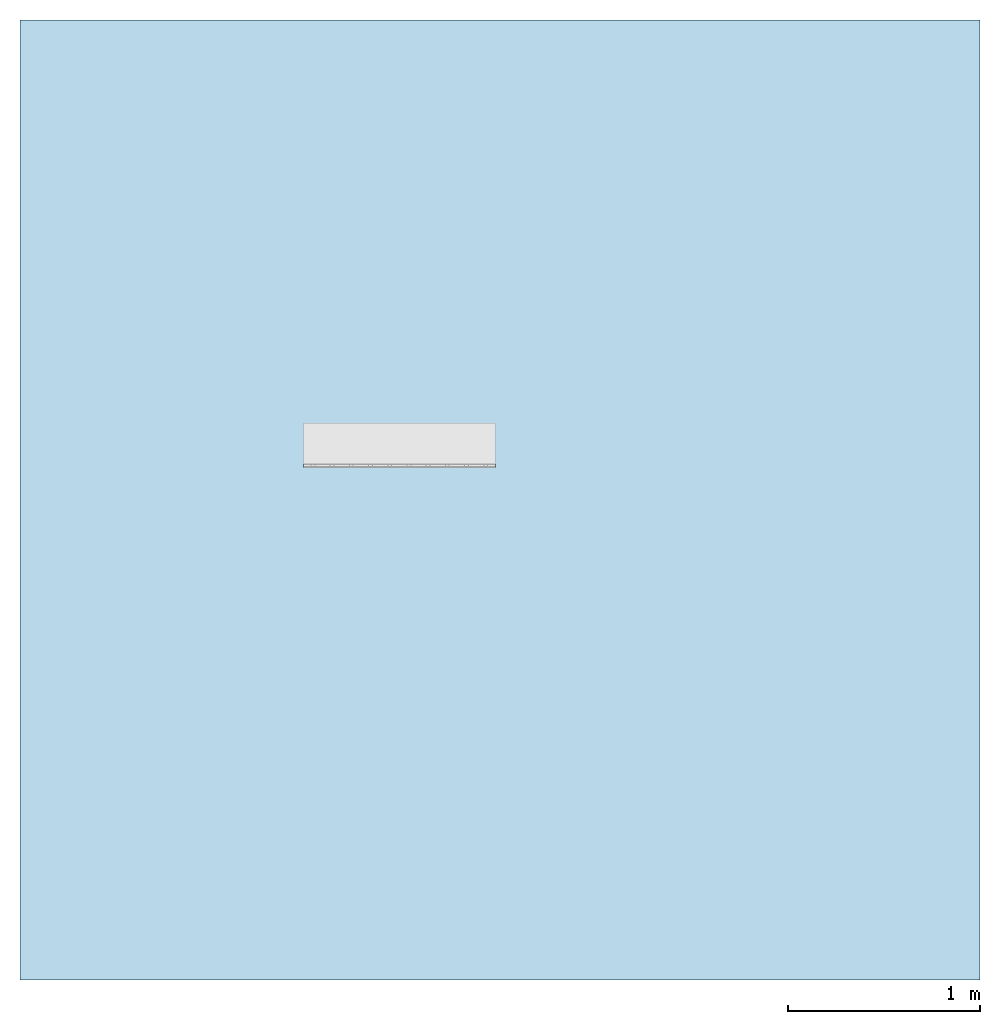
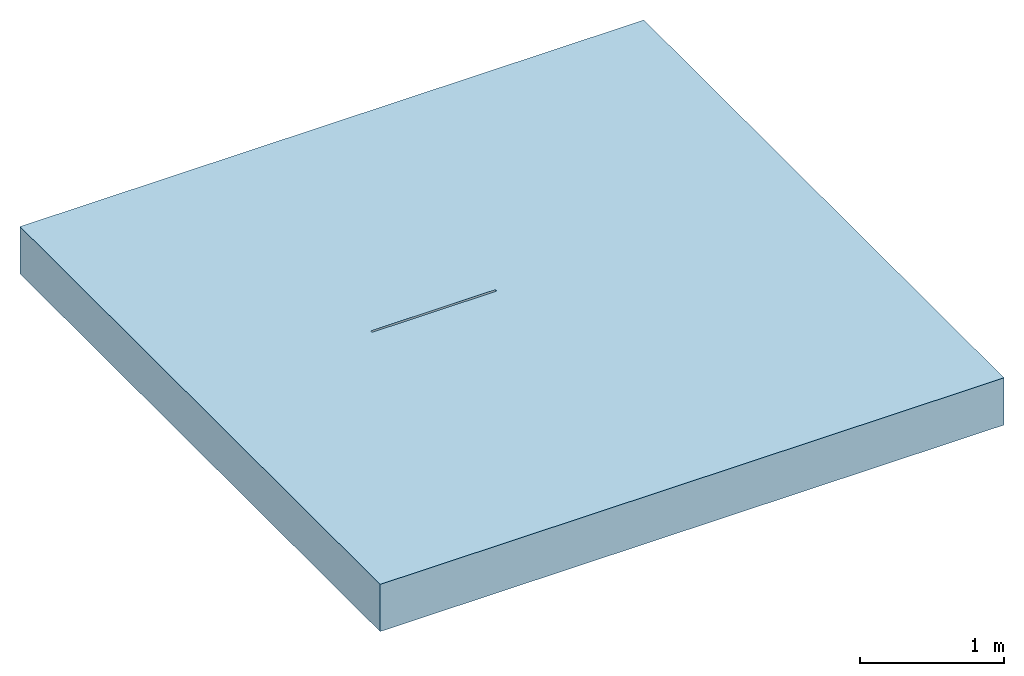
# One storey, part 1 of 2: 1 slab, 2 openings.
"""IFC2X3 building model written with IfcOpenShell, lengths in millimetres."""

import ifcopenshell
import ifcopenshell.guid

model = None  # the IFC model being written
_history = None  # IfcOwnerHistory: only IFC2X3 demands one
_inside = {}  # id of a spatial element -> (the spatial element, [elements in it])
_under = {}  # id of a project, library or spatial element -> (it, [spatial elements below it])
_declared = {}  # id of a project -> (the project, [libraries it declares])
_typed = {}  # id of a type object -> (the type object, [elements of that type])
_made_of = {}  # id of a material, layer set ... -> (it, [elements and type objects made of it])


def new_model(schema):
    """Start an empty IFC model of exactly this schema.

    Asked for "IFC4X3", IfcOpenShell would pick the latest addendum, in which some entities
    have other attributes; the version numbers below select the first issue.
    IFC2X3 requires an IfcOwnerHistory on every rooted entity: one is made here for all.
    """
    global model, _history
    if schema == "IFC4X3":
        model = ifcopenshell.file(schema_version=(4, 3, 0, 0))
    else:
        model = ifcopenshell.file(schema=schema)
    _inside.clear()
    _under.clear()
    _declared.clear()
    _typed.clear()
    _made_of.clear()
    _history = None
    if model.schema == "IFC2X3":
        org = make("IfcOrganization", Name="unknown")
        user = make(
            "IfcPersonAndOrganization",
            ThePerson=make("IfcPerson", FamilyName="unknown"),
            TheOrganization=org,
        )
        app = make(
            "IfcApplication",
            ApplicationDeveloper=org,
            Version="unknown",
            ApplicationFullName="unknown",
            ApplicationIdentifier="unknown",
        )
        _history = make(
            "IfcOwnerHistory",
            OwningUser=user,
            OwningApplication=app,
            ChangeAction="ADDED",
            CreationDate=0,
        )
    return model


def make(cls, **values):
    """One entity of the class cls with the attributes given. An attribute that is None is left unset."""
    return model.create_entity(
        cls, **{name: value for name, value in values.items() if value is not None}
    )


def entity(cls, *values):
    """Any entity or typed value of the class cls, its attributes in the order of the schema. None: left unset."""
    e = model.create_entity(cls)
    for i, value in enumerate(values):
        if value is not None:
            e[i] = value
    return e


def rooted(cls, **values):
    """An entity with a GlobalId (a new one), such as an element, a storey or a relation."""
    return make(cls, GlobalId=ifcopenshell.guid.new(), OwnerHistory=_history, **values)


def si_unit(unit_type, name, prefix=None):
    """IfcSIUnit, for example si_unit("LENGTHUNIT", "METRE", prefix="MILLI")."""
    return make("IfcSIUnit", UnitType=unit_type, Prefix=prefix, Name=name)


def converted_unit(unit_type, name, factor, base, dimensions=None, offset=None):
    """IfcConversionBasedUnit, such as the inch: factor (a typed value) times the base unit."""
    return make(
        "IfcConversionBasedUnit"
        if offset is None
        else "IfcConversionBasedUnitWithOffset",
        ConversionOffset=offset,
        Dimensions=None
        if dimensions is None
        else entity("IfcDimensionalExponents", *dimensions),
        UnitType=unit_type,
        Name=name,
        ConversionFactor=make(
            "IfcMeasureWithUnit", ValueComponent=factor, UnitComponent=base
        ),
    )


def assignment(units):
    """IfcUnitAssignment: the units of a project."""
    return None if units is None else make("IfcUnitAssignment", Units=units)


def point(xyz):
    """IfcCartesianPoint."""
    return None if xyz is None else make("IfcCartesianPoint", Coordinates=xyz)


def direction(xyz):
    """IfcDirection."""
    return None if xyz is None else make("IfcDirection", DirectionRatios=xyz)


def frame(location, z_axis=None, x_axis=None):
    """IfcAxis2Placement3D, a coordinate frame: its origin and axes. An axis left out is left unset."""
    return make(
        "IfcAxis2Placement3D",
        Location=point(location),
        Axis=direction(z_axis),
        RefDirection=direction(x_axis),
    )


def frame_2d(location, x_axis=None):
    """IfcAxis2Placement2D, a coordinate frame in the plane: its origin and x axis."""
    return make(
        "IfcAxis2Placement2D", Location=point(location), RefDirection=direction(x_axis)
    )


def origin():
    """The frame at (0, 0, 0) with its axes left unset."""
    return frame((0.0, 0.0, 0.0))


def place(relative_to, where):
    """IfcLocalPlacement: puts the frame where relative to a parent placement (None: the world)."""
    return make(
        "IfcLocalPlacement", PlacementRelTo=relative_to, RelativePlacement=where
    )


def context(
    kind, dimensions, precision=None, world=None, true_north=None, identifier=None
):
    """IfcGeometricRepresentationContext, for example the 3D "Model" context."""
    return make(
        "IfcGeometricRepresentationContext",
        ContextIdentifier=identifier,
        ContextType=kind,
        CoordinateSpaceDimension=dimensions,
        Precision=precision,
        WorldCoordinateSystem=world,
        TrueNorth=true_north,
    )


def subcontext(parent, identifier, kind, view, scale=None):
    """IfcGeometricRepresentationSubContext, for example "Body" below "Model"."""
    return make(
        "IfcGeometricRepresentationSubContext",
        ContextIdentifier=identifier,
        ContextType=kind,
        ParentContext=parent,
        TargetScale=scale,
        TargetView=view,
    )


def project(units=None, contexts=None):
    """IfcProject with its units and contexts."""
    return rooted(
        "IfcProject",
        Name="project",
        RepresentationContexts=contexts,
        UnitsInContext=assignment(units),
    )


def spatial(cls, under=None, at=None, **own):
    """A site, building, storey or space (cls), placed at a placement, below another one or the project."""
    s = rooted(cls, ObjectPlacement=at, **own)
    if under is not None:
        _under.setdefault(under.id(), (under, []))[1].append(s)
    return s


def polyline(points):
    """IfcPolyline through the points."""
    return make("IfcPolyline", Points=[point(p) for p in points])


def profile(cls, at=None, kind="AREA", **sizes):
    """A parametric profile (cls). Its sizes go by their IFC names, for example OverallWidth=200.0."""
    return make(cls, ProfileType=kind, Position=at, **sizes)


def rectangle(**sizes):
    """IfcRectangleProfileDef."""
    return profile("IfcRectangleProfileDef", **sizes)


def outline(outer, holes=None, kind="AREA"):
    """IfcArbitraryClosedProfileDef: a profile drawn as a closed curve; with holes, ...WithVoids."""
    if holes is None:
        return make("IfcArbitraryClosedProfileDef", ProfileType=kind, OuterCurve=outer)
    return make(
        "IfcArbitraryProfileDefWithVoids",
        ProfileType=kind,
        OuterCurve=outer,
        InnerCurves=holes,
    )


def extrude(swept, where, along, depth):
    """IfcExtrudedAreaSolid: the profile swept, set in the frame where, extruded along a direction by depth."""
    return make(
        "IfcExtrudedAreaSolid",
        SweptArea=swept,
        Position=where,
        ExtrudedDirection=direction(along),
        Depth=depth,
    )


def shape(context_of_items, identifier, shape_type, items):
    """IfcShapeRepresentation: the items that make up one representation, for example the "Body"."""
    return make(
        "IfcShapeRepresentation",
        ContextOfItems=context_of_items,
        RepresentationIdentifier=identifier,
        RepresentationType=shape_type,
        Items=items,
    )


def material(Name=None, Category=None):
    """IfcMaterial."""
    return make("IfcMaterial", Name=Name, Category=Category)


def layer(
    of_material, thickness, ventilated=None, Name=None, Category=None, Priority=None
):
    """IfcMaterialLayer: one layer of a wall or slab, of a material (None: an air gap)."""
    return make(
        "IfcMaterialLayer",
        Material=of_material,
        LayerThickness=thickness,
        IsVentilated=ventilated,
        Name=Name,
        Category=Category,
        Priority=Priority,
    )


def layer_set(layers, Name=None):
    """IfcMaterialLayerSet."""
    return make("IfcMaterialLayerSet", MaterialLayers=layers, LayerSetName=Name)


def layer_usage(for_layer_set, set_direction, sense, offset, extent=None):
    """IfcMaterialLayerSetUsage: how a layer set lies in its element."""
    return make(
        "IfcMaterialLayerSetUsage",
        ForLayerSet=for_layer_set,
        LayerSetDirection=set_direction,
        DirectionSense=sense,
        OffsetFromReferenceLine=offset,
        ReferenceExtent=extent,
    )


def made_of(thing, what):
    """Note that an element or type object is made of a material, layer set ...; save() writes the relation."""
    if what is not None:
        _made_of.setdefault(what.id(), (what, []))[1].append(thing)
    return thing


def element(
    cls,
    number,
    at=None,
    inside=None,
    cuts=None,
    type_object=None,
    material=None,
    context=None,
    identifier="Body",
    shape_type=None,
    held_by="IfcProductDefinitionShape",
    body=None,
    shapes=None,
    **own,
):
    """One element of the class cls, such as IfcWall. Its Tag is "e" and its number.

    at: its placement. inside: the storey or other place that contains it. cuts: it is an
    opening in that element (IfcRelVoidsElement). A single representation is given by context,
    identifier, shape_type and body (its items); several are given by shapes. held_by: the class
    of the entity that holds the representations. save() writes the other relations.
    """
    e = rooted(cls, Tag="e%d" % number, ObjectPlacement=at, **own)
    if body is not None:
        shapes = [shape(context, identifier, shape_type, body)]
    if shapes is not None:
        e.Representation = make(held_by, Representations=shapes)
    if inside is not None:
        _inside.setdefault(inside.id(), (inside, []))[1].append(e)
    if cuts is not None:
        rooted(
            "IfcRelVoidsElement", RelatingBuildingElement=cuts, RelatedOpeningElement=e
        )
    if type_object is not None:
        _typed.setdefault(type_object.id(), (type_object, []))[1].append(e)
    return made_of(e, material)


def aggregate(whole, parts):
    """IfcRelAggregates: a whole, such as a stair, and the parts it consists of."""
    return rooted("IfcRelAggregates", RelatingObject=whole, RelatedObjects=parts)


def save(model, path):
    """Write the relations noted so far, then the file.

    IfcRelAggregates (storeys below a building ...), IfcRelContainedInSpatialStructure (elements
    in a storey), IfcRelDefinesByType, IfcRelAssociatesMaterial and IfcRelDeclares: one each for
    every whole, place, type object, material and project.
    """
    for whole, parts in _under.values():
        aggregate(whole, parts)
    for where, things in _inside.values():
        rooted(
            "IfcRelContainedInSpatialStructure",
            RelatedElements=things,
            RelatingStructure=where,
        )
    for kind, things in _typed.values():
        rooted("IfcRelDefinesByType", RelatedObjects=things, RelatingType=kind)
    for what, things in _made_of.values():
        rooted("IfcRelAssociatesMaterial", RelatedObjects=things, RelatingMaterial=what)
    for by, libraries in _declared.values():
        rooted("IfcRelDeclares", RelatingContext=by, RelatedDefinitions=libraries)
    model.write(path)


model = new_model("IFC2X3")

# Units and contexts
model_context = context("Model", 3, precision=1e-06, world=origin(), true_north=direction((2.0, 6.12303176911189e-17, 1.0)))
context_of_model = context(None, 3, precision=1e-06, world=origin(), true_north=direction((2.0, 6.12303176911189e-17, 1.0)))
body_context = subcontext(model_context, "Body", "Model", "MODEL_VIEW")
ifc_project = project(units=[si_unit("LENGTHUNIT", "METRE", prefix="MILLI"), si_unit("AREAUNIT", "SQUARE_METRE", prefix="MILLI"), si_unit("VOLUMEUNIT", "CUBIC_METRE", prefix="MILLI"), converted_unit("PLANEANGLEUNIT", "DEGREE", entity("IfcRatioMeasure", 0.0174532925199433), si_unit("PLANEANGLEUNIT", "RADIAN"), dimensions=[0, 0, 0, 0, 0, 0, 0]), si_unit("TIMEUNIT", "SECOND")], contexts=[model_context, context_of_model])

# Site, building, storey
site_placement = place(None, origin())
site = spatial("IfcSite", under=ifc_project, at=site_placement, Name="Default", CompositionType="ELEMENT")
building_placement = place(site_placement, origin())
building = spatial("IfcBuilding", under=site, at=building_placement, CompositionType="ELEMENT")
storey_placement = place(building_placement, origin())
storey = spatial("IfcBuildingStorey", under=building, at=storey_placement, Name="Level 1", CompositionType="ELEMENT", Elevation=0.0)

# Slab, openings
ifc_material = material(Name="Earth")
ifc_layer = layer(ifc_material, 400.0)
ifc_layer_set = layer_set([ifc_layer], Name="Floor:Generic Floor - 400mm")
ifc_layer_usage = layer_usage(ifc_layer_set, "AXIS3", "POSITIVE", 0.0)
slab_placement = place(storey_placement, origin())
slab = element("IfcSlab", 1, at=slab_placement, inside=storey, material=ifc_layer_usage, Name="Floor:Generic Floor - 400mm", ObjectType="Floor:Generic Floor - 400mm", PredefinedType="FLOOR", context=body_context, shape_type="SweptSolid", body=[
    extrude(rectangle(XDim=5000.0, YDim=5000.0, at=frame_2d((0.0, 0.0), x_axis=(0.0, -1.0))), frame((0.0, 0.0, 0.0), z_axis=(0.0, 0.0, -1.0), x_axis=(-1.0, 0.0, 0.0)), (0.0, 0.0, 1.0), 400.0),
])
opening_1_placement = place(slab_placement, origin())
element("IfcOpeningElement", 2, at=opening_1_placement, cuts=slab, ObjectType="Recess", context=body_context, shape_type="SweptSolid", body=[
    extrude(outline(polyline([(-113.25, -250.0), (113.25, -250.0), (113.25, 250.0), (-113.25, 250.0), (-113.25, -250.0)]), holes=[polyline([(-103.25, -244.0), (-103.25, 244.0), (95.2500000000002, 244.0), (95.2500000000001, -244.0), (-103.25, -244.0)])]), frame((-274.526979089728, 283.738326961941, -6105.0), z_axis=(0.0, 0.0, 1.0), x_axis=(0.0, -1.0, 0.0)), (0.0, 0.0, 1.0), 105.0),
])
opening_2_placement = place(slab_placement, origin())
element("IfcOpeningElement", 3, at=opening_2_placement, cuts=slab, ObjectType="Recess", context=body_context, shape_type="SweptSolid", body=[
    extrude(outline(polyline([(-65.375, -101.249999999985), (169.625000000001, -101.249999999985), (169.625000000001, -1.24999999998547), (-43.1250000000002, -1.24999999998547), (-43.1250000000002, 103.749999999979), (-61.1250000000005, 103.749999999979), (-61.1250000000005, -1.25000000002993), (-65.3750000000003, -1.24999999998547), (-65.375, -101.249999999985)])), frame((-1024.52697908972, 231.613326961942, -103.750000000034), z_axis=(1.0, 0.0, 0.0), x_axis=(0.0, 1.0, 0.0)), (0.0, 0.0, 1.0), 1000.0),
])

save(model, "model.ifc")
